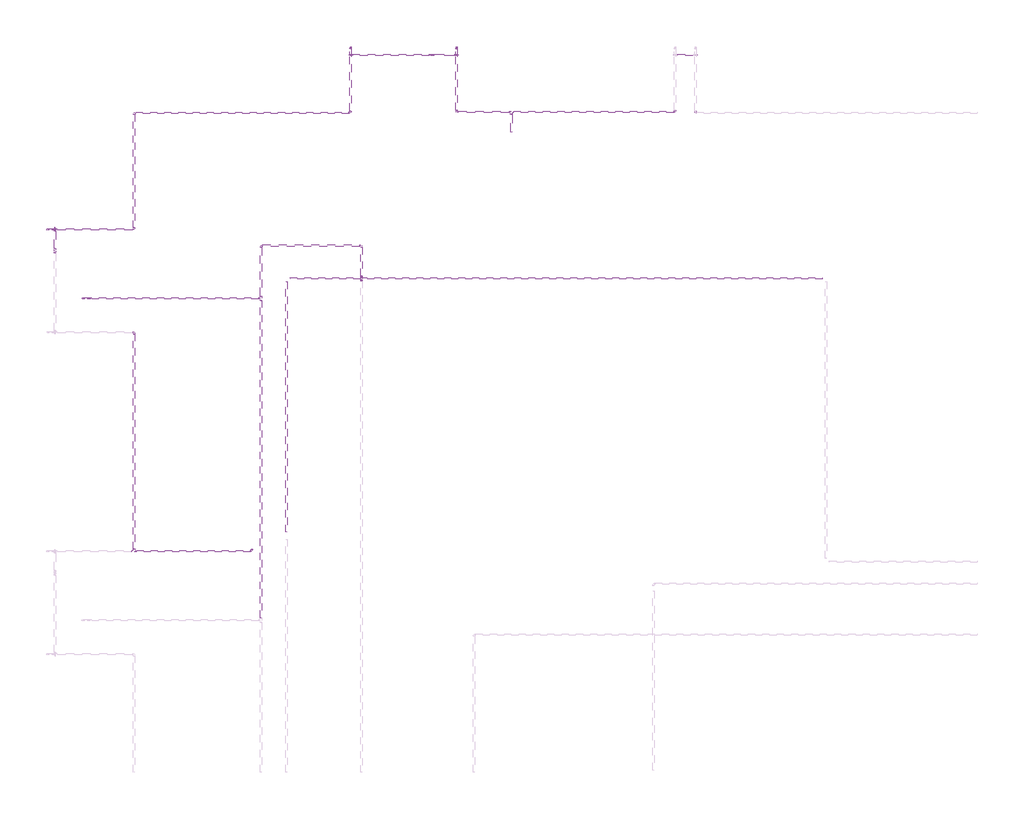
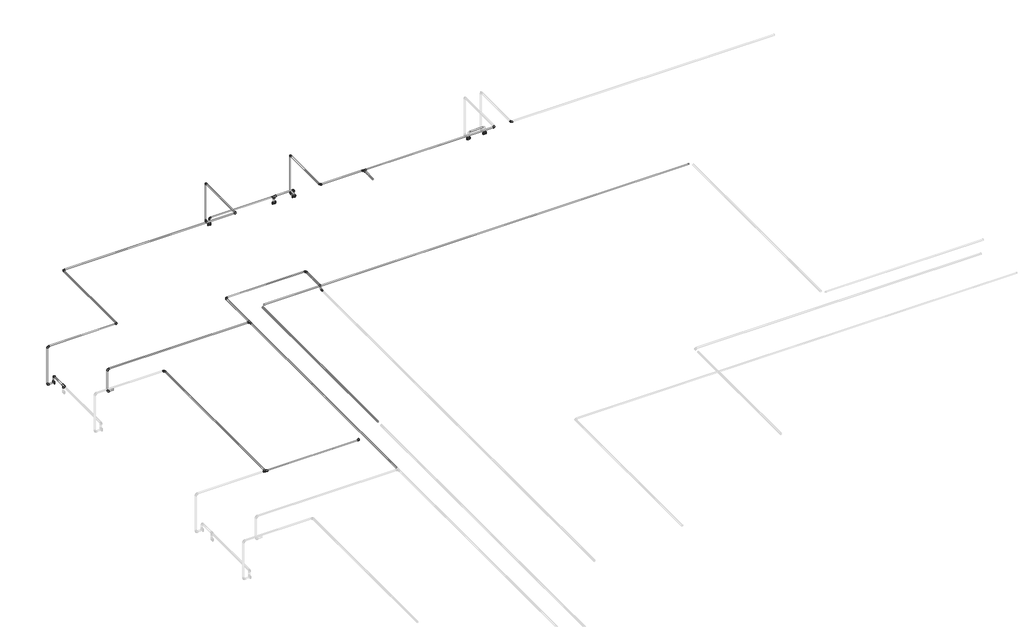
# One storey, part 29 of 40: 35 cable carrier segments, 28 cable carrier fittings, 6 electric appliances.
"""IFC4 building model written with IfcOpenShell, lengths in millimetres."""

from ifc_helpers import new_model, si_unit, point, frame, frame_2d, origin, place, context, project, spatial, circle_curve, trimmed, segment, composite_curve, outline, extrude, transform, mapped, element, save
from components import cable_carrier_fitting_69f1a801, cable_carrier_fitting_8122f9af, cable_carrier_fitting_8fd13dfc, electric_appliance_5961a143

model = new_model("IFC4")

# Units and contexts
model_context = context("Model", 3, world=origin())
ifc_project = project(units=[si_unit("LENGTHUNIT", "METRE", prefix="MILLI")], contexts=[model_context])

# Site, building, storey
site = spatial("IfcSite", under=ifc_project)
building = spatial("IfcBuilding", under=site)
storey = spatial("IfcBuildingStorey", under=building, Name="1 этаж", Elevation=0.0)

# Cable carrier fittings
placement = place(None, origin())
cable_carrier_fitting_shape = cable_carrier_fitting_69f1a801(model_context)
element("IfcCableCarrierFitting", 1, ObjectType="ADSK_Поворот_Минимальный размер : Неспецифицируемый", at=placement, inside=storey, context=model_context, shape_type="MappedRepresentation", body=[
    mapped(cable_carrier_fitting_shape, transform((-16746.5238077, 20232.1370105, 2534.0911237), x_axis=(-1.0, 0.0, 0.0), y_axis=(0.0, 0.0, 1.0), z_axis=(0.0, 1.0, 0.0))),
])
element("IfcCableCarrierFitting", 2, ObjectType="ADSK_Поворот_Минимальный размер : Неспецифицируемый", at=placement, inside=storey, context=model_context, shape_type="MappedRepresentation", body=[
    mapped(cable_carrier_fitting_shape, transform((-16746.5238077, 20232.1370105, 3187.0), x_axis=(0.0, 0.0, 1.0), y_axis=(1.0, 0.0, 0.0), z_axis=(0.0, 1.0, 0.0))),
])
element("IfcCableCarrierFitting", 3, ObjectType="ADSK_Поворот_Минимальный размер : Неспецифицируемый", at=placement, inside=storey, context=model_context, shape_type="MappedRepresentation", body=[
    mapped(cable_carrier_fitting_shape, transform((-11452.3240021, 22488.6370105, 2650.0), x_axis=(0.0, 0.0, 1.0), y_axis=(-1.0, 0.0, 0.0), z_axis=(0.0, -1.0, 0.0))),
])
element("IfcCableCarrierFitting", 4, ObjectType="ADSK_Поворот_Минимальный размер : Неспецифицируемый", at=placement, inside=storey, context=model_context, shape_type="MappedRepresentation", body=[
    mapped(cable_carrier_fitting_shape, transform((-12822.3240021, 22488.6370105, 2650.0), x_axis=(0.0, 0.0, 1.0), y_axis=(1.0, 0.0, 0.0), z_axis=(0.0, 1.0, 0.0))),
])
element("IfcCableCarrierFitting", 5, ObjectType="ADSK_Поворот_Минимальный размер : Неспецифицируемый", at=placement, inside=storey, context=model_context, shape_type="MappedRepresentation", body=[
    mapped(cable_carrier_fitting_shape, transform((-12822.3240021, 22588.8368161, 2534.0911237), x_axis=(0.0, 1.0, 0.0), y_axis=(0.0, 0.0, 1.0), z_axis=(1.0, 0.0, 0.0))),
])
element("IfcCableCarrierFitting", 6, ObjectType="ADSK_Поворот_Минимальный размер : Неспецифицируемый", at=placement, inside=storey, context=model_context, shape_type="MappedRepresentation", body=[
    mapped(cable_carrier_fitting_shape, transform((-12822.3240021, 22588.8368161, 3187.0), x_axis=(0.0, 0.0, 1.0), y_axis=(0.0, -1.0, 0.0), z_axis=(1.0, 0.0, 0.0))),
])
element("IfcCableCarrierFitting", 7, ObjectType="ADSK_Поворот_Минимальный размер : Неспецифицируемый", at=placement, inside=storey, context=model_context, shape_type="MappedRepresentation", body=[
    mapped(cable_carrier_fitting_shape, transform((-12822.3240021, 21741.6370105, 3187.0), x_axis=(1.0, 0.0, 0.0), y_axis=(0.0, 1.0, 0.0), z_axis=(0.0, 0.0, 1.0))),
])
element("IfcCableCarrierFitting", 8, ObjectType="ADSK_Поворот_Минимальный размер : Неспецифицируемый", at=placement, inside=storey, context=model_context, shape_type="MappedRepresentation", body=[
    mapped(cable_carrier_fitting_shape, transform((-15622.3240021, 20232.1370105, 3187.0), x_axis=(1.0, 0.0, 0.0), y_axis=(0.0, 1.0, 0.0), z_axis=(0.0, 0.0, 1.0))),
])
element("IfcCableCarrierFitting", 9, ObjectType="ADSK_Поворот_Минимальный размер : Неспецифицируемый", at=placement, inside=storey, context=model_context, shape_type="MappedRepresentation", body=[
    mapped(cable_carrier_fitting_shape, transform((-15622.3240021, 21741.6370105, 3187.0), x_axis=(-1.0, 0.0, 0.0), y_axis=(0.0, -1.0, 0.0), z_axis=(0.0, 0.0, 1.0))),
])
element("IfcCableCarrierFitting", 10, ObjectType="ADSK_Поворот_Минимальный размер : Неспецифицируемый", at=placement, inside=storey, context=model_context, shape_type="MappedRepresentation", body=[
    mapped(cable_carrier_fitting_shape, transform((-11452.3240021, 22588.8368161, 2534.0911237), x_axis=(0.0, 1.0, 0.0), y_axis=(0.0, 0.0, 1.0), z_axis=(1.0, 0.0, 0.0))),
])
element("IfcCableCarrierFitting", 11, ObjectType="ADSK_Поворот_Минимальный размер : Неспецифицируемый", at=placement, inside=storey, context=model_context, shape_type="MappedRepresentation", body=[
    mapped(cable_carrier_fitting_shape, transform((-11452.3240021, 22588.8368161, 3187.0), x_axis=(0.0, 0.0, 1.0), y_axis=(0.0, -1.0, 0.0), z_axis=(1.0, 0.0, 0.0))),
])
element("IfcCableCarrierFitting", 12, ObjectType="ADSK_Поворот_Минимальный размер : Неспецифицируемый", at=placement, inside=storey, context=model_context, shape_type="MappedRepresentation", body=[
    mapped(cable_carrier_fitting_shape, transform((-11452.3240021, 21751.6370105, 3187.0), x_axis=(0.0, -1.0, 0.0), y_axis=(1.0, 0.0, 0.0), z_axis=(0.0, 0.0, 1.0))),
])
element("IfcCableCarrierFitting", 13, ObjectType="ADSK_Поворот_Минимальный размер : Неспецифицируемый", at=placement, inside=storey, context=model_context, shape_type="MappedRepresentation", body=[
    mapped(cable_carrier_fitting_shape, transform((-8622.3240021, 21751.6370105, 3187.0), x_axis=(1.0, 0.0, 0.0), y_axis=(0.0, 1.0, 0.0), z_axis=(0.0, 0.0, 1.0))),
])
element("IfcCableCarrierFitting", 14, ObjectType="ADSK_Поворот_Минимальный размер : Неспецифицируемый", at=placement, inside=storey, context=model_context, shape_type="MappedRepresentation", body=[
    mapped(cable_carrier_fitting_shape, transform((-8362.3240021, 21741.6370105, 3187.0), x_axis=(0.0, -1.0, 0.0), y_axis=(1.0, 0.0, 0.0), z_axis=(0.0, 0.0, 1.0))),
])
element("IfcCableCarrierFitting", 15, ObjectType="ADSK_Поворот_Минимальный размер : Неспецифицируемый", at=placement, inside=storey, context=model_context, shape_type="MappedRepresentation", body=[
    mapped(cable_carrier_fitting_shape, transform((-16289.5238077, 19339.6370105, 2797.4861504), x_axis=(-1.0, 0.0, 0.0), y_axis=(0.0, 0.0, 1.0), z_axis=(0.0, 1.0, 0.0))),
])
element("IfcCableCarrierFitting", 16, ObjectType="ADSK_Поворот_Минимальный размер : Неспецифицируемый", at=placement, inside=storey, context=model_context, shape_type="MappedRepresentation", body=[
    mapped(cable_carrier_fitting_shape, transform((-13982.3240021, 20021.1105956, 3180.0), x_axis=(-1.0, 0.0, 0.0), y_axis=(0.0, -1.0, 0.0), z_axis=(0.0, 0.0, 1.0))),
])
element("IfcCableCarrierFitting", 17, ObjectType="ADSK_Поворот_Минимальный размер : Неспецифицируемый", at=placement, inside=storey, context=model_context, shape_type="MappedRepresentation", body=[
    mapped(cable_carrier_fitting_shape, transform((-16289.5238077, 19339.6370105, 3180.0), x_axis=(0.0, 0.0, 1.0), y_axis=(1.0, 0.0, 0.0), z_axis=(0.0, 1.0, 0.0))),
])
element("IfcCableCarrierFitting", 18, ObjectType="ADSK_Поворот_Минимальный размер : Неспецифицируемый", at=placement, inside=storey, context=model_context, shape_type="MappedRepresentation", body=[
    mapped(cable_carrier_fitting_shape, transform((-15622.3240021, 18899.6370105, 3187.0), x_axis=(0.0, 1.0, 0.0), y_axis=(-1.0, 0.0, 0.0), z_axis=(0.0, 0.0, 1.0))),
])
element("IfcCableCarrierFitting", 19, ObjectType="ADSK_Поворот_Минимальный размер : Неспецифицируемый", at=placement, inside=storey, context=model_context, shape_type="MappedRepresentation", body=[
    mapped(cable_carrier_fitting_shape, transform((-14101.29415, 16064.6370105, 3187.0), x_axis=(1.0, 0.0, 0.0), y_axis=(0.0, 1.0, 0.0), z_axis=(0.0, 0.0, 1.0))),
])
element("IfcCableCarrierFitting", 20, ObjectType="ADSK_Поворот_Минимальный размер : Неспецифицируемый", at=placement, inside=storey, context=model_context, shape_type="MappedRepresentation", body=[
    mapped(cable_carrier_fitting_shape, transform((-16646.3240021, 20232.1370105, 2650.0), x_axis=(0.0, 1.0, 0.0), y_axis=(0.0, 0.0, -1.0), z_axis=(-1.0, 0.0, 0.0))),
])
element("IfcCableCarrierFitting", 21, ObjectType="ADSK_Поворот_Минимальный размер : Неспецифицируемый", at=placement, inside=storey, context=model_context, shape_type="MappedRepresentation", body=[
    mapped(cable_carrier_fitting_shape, transform((-12682.3240021, 20021.1105956, 3180.0), x_axis=(0.0, 1.0, 0.0), y_axis=(-1.0, 0.0, 0.0), z_axis=(0.0, 0.0, 1.0))),
])
cable_carrier_fitting_2_shape = cable_carrier_fitting_8122f9af(model_context)
element("IfcCableCarrierFitting", 22, ObjectType="ADSK_Поворот_Минимальный размер : Неспецифицируемый", at=placement, inside=storey, context=model_context, shape_type="MappedRepresentation", body=[
    mapped(cable_carrier_fitting_2_shape, transform((-12682.3240021, 19571.5200955, 3130.0), x_axis=(0.0, -0.7071067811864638, -0.7071067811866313), y_axis=(0.0, -0.7071067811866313, 0.7071067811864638), z_axis=(-1.0, 0.0, 0.0))),
])
element("IfcCableCarrierFitting", 23, ObjectType="ADSK_Поворот_Минимальный размер : Неспецифицируемый", at=placement, inside=storey, context=model_context, shape_type="MappedRepresentation", body=[
    mapped(cable_carrier_fitting_2_shape, transform((-12682.3240021, 19621.5200955, 3180.0), x_axis=(0.0, 0.7071067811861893, 0.7071067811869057), y_axis=(0.0, 0.7071067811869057, -0.7071067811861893), z_axis=(-1.0, 0.0, 0.0))),
])
cable_carrier_fitting_3_shape = cable_carrier_fitting_8fd13dfc(model_context)
element("IfcCableCarrierFitting", 24, ObjectType="ADSK_Тройник : ПВХ", at=placement, inside=storey, context=model_context, shape_type="MappedRepresentation", body=[
    mapped(cable_carrier_fitting_3_shape, transform((-16646.3240021, 19952.1370105, 2650.0), x_axis=(0.0, 1.0, 0.0), y_axis=(0.0, 0.0, 1.0), z_axis=(1.0, 0.0, 0.0))),
])
element("IfcCableCarrierFitting", 25, ObjectType="ADSK_Тройник : ПВХ", at=placement, inside=storey, context=model_context, shape_type="MappedRepresentation", body=[
    mapped(cable_carrier_fitting_3_shape, transform((-11772.3240021, 22488.6370105, 2650.0), x_axis=(1.0, 0.0, 0.0), y_axis=(0.0, 0.0, 1.0), z_axis=(0.0, -1.0, 0.0))),
])
element("IfcCableCarrierFitting", 26, ObjectType="ADSK_Тройник : ПВХ", at=placement, inside=storey, context=model_context, shape_type="MappedRepresentation", body=[
    mapped(cable_carrier_fitting_3_shape, transform((-13982.3240021, 19339.6370105, 3180.0), x_axis=(0.0, -1.0, 0.0), y_axis=(1.0, 0.0, 0.0), z_axis=(0.0, 0.0, 1.0))),
])
element("IfcCableCarrierFitting", 27, ObjectType="ADSK_Тройник : ПВХ", at=placement, inside=storey, context=model_context, shape_type="MappedRepresentation", body=[
    mapped(cable_carrier_fitting_3_shape, transform((-15622.3240021, 16064.6370105, 3187.0), x_axis=(-1.0, 0.0, 0.0), y_axis=(0.0, -1.0, 0.0), z_axis=(0.0, 0.0, 1.0))),
])
element("IfcCableCarrierFitting", 28, ObjectType="ADSK_Тройник : ПВХ", at=placement, inside=storey, context=model_context, shape_type="MappedRepresentation", body=[
    mapped(cable_carrier_fitting_3_shape, transform((-10742.3240021, 21751.6370105, 3187.0), x_axis=(1.0, 0.0, 0.0), y_axis=(0.0, 1.0, 0.0), z_axis=(0.0, 0.0, 1.0))),
])

# Cable carrier segments
element("IfcCableCarrierSegment", 29, ObjectType="Гофрированная труба", at=placement, inside=storey, context=model_context, shape_type="SweptSolid", body=[
    extrude(outline(composite_curve([segment(trimmed(circle_curve(frame_2d((19599.63701, 3189.2125212)), 10.0), [point((19609.63701, 3189.2125212))], [point((19599.63701, 3179.2125212))], False, "CARTESIAN"), True, "CONTINUOUS"), segment(trimmed(circle_curve(frame_2d((19599.63701, 3189.2125212)), 10.0), [point((19599.63701, 3179.2125212))], [point((19589.63701, 3189.2125212))], False, "CARTESIAN"), True, "CONTINUOUS"), segment(trimmed(circle_curve(frame_2d((19599.63701, 3189.2125212)), 10.0), [point((19589.63701, 3189.2125212))], [point((19599.63701, 3199.2125212))], False, "CARTESIAN"), True, "CONTINUOUS"), segment(trimmed(circle_curve(frame_2d((19599.63701, 3189.2125212)), 10.0), [point((19599.63701, 3199.2125212))], [point((19609.63701, 3189.2125212))], False, "CARTESIAN"), True, "CONTINUOUS")], self_intersect=False)), frame((-13605.8240113, 0.0, 0.0), z_axis=(1.0, 0.0, 0.0), x_axis=(0.0, 1.0, 0.0)), (0.0, 0.0, 1.0), 6887.0000092),
])
element("IfcCableCarrierSegment", 30, ObjectType="Гофрированная труба", at=placement, inside=storey, context=model_context, shape_type="SweptSolid", body=[
    extrude(outline(composite_curve([segment(trimmed(circle_curve(frame_2d((3189.2125212, -13652.3240113)), 10.0), [point((3189.2125212, -13642.3240113))], [point((3199.2125212, -13652.3240113))], False, "CARTESIAN"), True, "CONTINUOUS"), segment(trimmed(circle_curve(frame_2d((3189.2125212, -13652.3240113)), 10.0), [point((3199.2125212, -13652.3240113))], [point((3189.2125212, -13662.3240113))], False, "CARTESIAN"), True, "CONTINUOUS"), segment(trimmed(circle_curve(frame_2d((3189.2125212, -13652.3240113)), 10.0), [point((3189.2125212, -13662.3240113))], [point((3179.2125212, -13652.3240113))], False, "CARTESIAN"), True, "CONTINUOUS"), segment(trimmed(circle_curve(frame_2d((3189.2125212, -13652.3240113)), 10.0), [point((3179.2125212, -13652.3240113))], [point((3189.2125212, -13642.3240113))], False, "CARTESIAN"), True, "CONTINUOUS")], self_intersect=False)), frame((0.0, 16311.1370097, 0.0), z_axis=(0.0, 1.0, 0.0), x_axis=(0.0, 0.0, 1.0)), (0.0, 0.0, 1.0), 3242.0000003),
])
element("IfcCableCarrierSegment", 31, ObjectType="Гофрированная труба", at=placement, inside=storey, context=model_context, shape_type="SweptSolid", body=[
    extrude(outline(composite_curve([segment(trimmed(circle_curve(frame_2d((-16646.3240021, 20232.1370105)), 10.0), [point((-16636.3240021, 20232.1370105))], [point((-16646.3240021, 20222.1370105))], False, "CARTESIAN"), True, "CONTINUOUS"), segment(trimmed(circle_curve(frame_2d((-16646.3240021, 20232.1370105)), 10.0), [point((-16646.3240021, 20222.1370105))], [point((-16656.3240021, 20232.1370105))], False, "CARTESIAN"), True, "CONTINUOUS"), segment(trimmed(circle_curve(frame_2d((-16646.3240021, 20232.1370105)), 10.0), [point((-16656.3240021, 20232.1370105))], [point((-16646.3240021, 20242.1370105))], False, "CARTESIAN"), True, "CONTINUOUS"), segment(trimmed(circle_curve(frame_2d((-16646.3240021, 20232.1370105)), 10.0), [point((-16646.3240021, 20242.1370105))], [point((-16636.3240021, 20232.1370105))], False, "CARTESIAN"), True, "CONTINUOUS")], self_intersect=False)), frame((0.0, 0.0, 2563.1207114), z_axis=(0.0, 0.0, 1.0), x_axis=(1.0, 0.0, 0.0)), (0.0, 0.0, 1.0), 65.8792886),
])
element("IfcCableCarrierSegment", 32, ObjectType="Гофрированная труба", at=placement, inside=storey, context=model_context, shape_type="SweptSolid", body=[
    extrude(outline(composite_curve([segment(trimmed(circle_curve(frame_2d((2650.0, -16646.3240021)), 10.0), [point((2650.0, -16656.3240021))], [point((2640.0, -16646.3240021))], False, "CARTESIAN"), True, "CONTINUOUS"), segment(trimmed(circle_curve(frame_2d((2650.0, -16646.3240021)), 10.0), [point((2640.0, -16646.3240021))], [point((2650.0, -16636.3240021))], False, "CARTESIAN"), True, "CONTINUOUS"), segment(trimmed(circle_curve(frame_2d((2650.0, -16646.3240021)), 10.0), [point((2650.0, -16636.3240021))], [point((2660.0, -16646.3240021))], False, "CARTESIAN"), True, "CONTINUOUS"), segment(trimmed(circle_curve(frame_2d((2650.0, -16646.3240021)), 10.0), [point((2660.0, -16646.3240021))], [point((2650.0, -16656.3240021))], False, "CARTESIAN"), True, "CONTINUOUS")], self_intersect=False)), frame((0.0, 19982.1370105, 0.0), z_axis=(0.0, 1.0, 0.0), x_axis=(0.0, 0.0, 1.0)), (0.0, 0.0, 1.0), 229.0),
])
element("IfcCableCarrierSegment", 33, ObjectType="Гофрированная труба", at=placement, inside=storey, context=model_context, shape_type="SweptSolid", body=[
    extrude(outline(composite_curve([segment(trimmed(circle_curve(frame_2d((20232.1370105, 3187.0)), 10.0), [point((20222.1370105, 3187.0))], [point((20232.1370105, 3197.0))], False, "CARTESIAN"), True, "CONTINUOUS"), segment(trimmed(circle_curve(frame_2d((20232.1370105, 3187.0)), 10.0), [point((20232.1370105, 3197.0))], [point((20242.1370105, 3187.0))], False, "CARTESIAN"), True, "CONTINUOUS"), segment(trimmed(circle_curve(frame_2d((20232.1370105, 3187.0)), 10.0), [point((20242.1370105, 3187.0))], [point((20232.1370105, 3177.0))], False, "CARTESIAN"), True, "CONTINUOUS"), segment(trimmed(circle_curve(frame_2d((20232.1370105, 3187.0)), 10.0), [point((20232.1370105, 3177.0))], [point((20222.1370105, 3187.0))], False, "CARTESIAN"), True, "CONTINUOUS")], self_intersect=False)), frame((-16725.5238077, 0.0, 0.0), z_axis=(1.0, 0.0, 0.0), x_axis=(0.0, 1.0, 0.0)), (0.0, 0.0, 1.0), 1082.1998056),
])
element("IfcCableCarrierSegment", 34, ObjectType="Гофрированная труба", at=placement, inside=storey, context=model_context, shape_type="SweptSolid", body=[
    extrude(outline(composite_curve([segment(trimmed(circle_curve(frame_2d((20232.1370105, 2534.0911237)), 10.0), [point((20242.1370105, 2534.0911237))], [point((20232.1370105, 2524.0911237))], False, "CARTESIAN"), True, "CONTINUOUS"), segment(trimmed(circle_curve(frame_2d((20232.1370105, 2534.0911237)), 10.0), [point((20232.1370105, 2524.0911237))], [point((20222.1370105, 2534.0911237))], False, "CARTESIAN"), True, "CONTINUOUS"), segment(trimmed(circle_curve(frame_2d((20232.1370105, 2534.0911237)), 10.0), [point((20222.1370105, 2534.0911237))], [point((20232.1370105, 2544.0911237))], False, "CARTESIAN"), True, "CONTINUOUS"), segment(trimmed(circle_curve(frame_2d((20232.1370105, 2534.0911237)), 10.0), [point((20232.1370105, 2544.0911237))], [point((20242.1370105, 2534.0911237))], False, "CARTESIAN"), True, "CONTINUOUS")], self_intersect=False)), frame((-16725.5238077, 0.0, 0.0), z_axis=(1.0, 0.0, 0.0), x_axis=(0.0, 1.0, 0.0)), (0.0, 0.0, 1.0), 76.1998056),
])
element("IfcCableCarrierSegment", 35, ObjectType="Гофрированная труба", at=placement, inside=storey, context=model_context, shape_type="SweptSolid", body=[
    extrude(outline(composite_curve([segment(trimmed(circle_curve(frame_2d((-16746.5238077, 20232.1370105)), 10.0), [point((-16756.5238077, 20232.1370105))], [point((-16746.5238077, 20242.1370105))], False, "CARTESIAN"), True, "CONTINUOUS"), segment(trimmed(circle_curve(frame_2d((-16746.5238077, 20232.1370105)), 10.0), [point((-16746.5238077, 20242.1370105))], [point((-16736.5238077, 20232.1370105))], False, "CARTESIAN"), True, "CONTINUOUS"), segment(trimmed(circle_curve(frame_2d((-16746.5238077, 20232.1370105)), 10.0), [point((-16736.5238077, 20232.1370105))], [point((-16746.5238077, 20222.1370105))], False, "CARTESIAN"), True, "CONTINUOUS"), segment(trimmed(circle_curve(frame_2d((-16746.5238077, 20232.1370105)), 10.0), [point((-16746.5238077, 20222.1370105))], [point((-16756.5238077, 20232.1370105))], False, "CARTESIAN"), True, "CONTINUOUS")], self_intersect=False)), frame((0.0, 0.0, 2555.0911237), z_axis=(0.0, 0.0, 1.0), x_axis=(1.0, 0.0, 0.0)), (0.0, 0.0, 1.0), 610.9088763),
])
element("IfcCableCarrierSegment", 36, ObjectType="Гофрированная труба", at=placement, inside=storey, context=model_context, shape_type="SweptSolid", body=[
    extrude(outline(composite_curve([segment(trimmed(circle_curve(frame_2d((-12822.3240021, 22488.6370105)), 10.0), [point((-12832.3240021, 22488.6370105))], [point((-12822.3240021, 22498.6370105))], False, "CARTESIAN"), True, "CONTINUOUS"), segment(trimmed(circle_curve(frame_2d((-12822.3240021, 22488.6370105)), 10.0), [point((-12822.3240021, 22498.6370105))], [point((-12812.3240021, 22488.6370105))], False, "CARTESIAN"), True, "CONTINUOUS"), segment(trimmed(circle_curve(frame_2d((-12822.3240021, 22488.6370105)), 10.0), [point((-12812.3240021, 22488.6370105))], [point((-12822.3240021, 22478.6370105))], False, "CARTESIAN"), True, "CONTINUOUS"), segment(trimmed(circle_curve(frame_2d((-12822.3240021, 22488.6370105)), 10.0), [point((-12822.3240021, 22478.6370105))], [point((-12832.3240021, 22488.6370105))], False, "CARTESIAN"), True, "CONTINUOUS")], self_intersect=False)), frame((0.0, 0.0, 2563.1207114), z_axis=(0.0, 0.0, 1.0), x_axis=(1.0, 0.0, 0.0)), (0.0, 0.0, 1.0), 65.8792886),
])
element("IfcCableCarrierSegment", 37, ObjectType="Гофрированная труба", at=placement, inside=storey, context=model_context, shape_type="SweptSolid", body=[
    extrude(outline(composite_curve([segment(trimmed(circle_curve(frame_2d((-11772.3240021, 22488.6370105)), 10.0), [point((-11782.3240021, 22488.6370105))], [point((-11772.3240021, 22498.6370105))], False, "CARTESIAN"), True, "CONTINUOUS"), segment(trimmed(circle_curve(frame_2d((-11772.3240021, 22488.6370105)), 10.0), [point((-11772.3240021, 22498.6370105))], [point((-11762.3240021, 22488.6370105))], False, "CARTESIAN"), True, "CONTINUOUS"), segment(trimmed(circle_curve(frame_2d((-11772.3240021, 22488.6370105)), 10.0), [point((-11762.3240021, 22488.6370105))], [point((-11772.3240021, 22478.6370105))], False, "CARTESIAN"), True, "CONTINUOUS"), segment(trimmed(circle_curve(frame_2d((-11772.3240021, 22488.6370105)), 10.0), [point((-11772.3240021, 22478.6370105))], [point((-11782.3240021, 22488.6370105))], False, "CARTESIAN"), True, "CONTINUOUS")], self_intersect=False)), frame((0.0, 0.0, 2563.1207114), z_axis=(0.0, 0.0, 1.0), x_axis=(1.0, 0.0, 0.0)), (0.0, 0.0, 1.0), 56.8792886),
])
element("IfcCableCarrierSegment", 38, ObjectType="Гофрированная труба", at=placement, inside=storey, context=model_context, shape_type="SweptSolid", body=[
    extrude(outline(composite_curve([segment(trimmed(circle_curve(frame_2d((22488.6370105, 2650.0)), 10.0), [point((22498.6370105, 2650.0))], [point((22488.6370105, 2640.0))], False, "CARTESIAN"), True, "CONTINUOUS"), segment(trimmed(circle_curve(frame_2d((22488.6370105, 2650.0)), 10.0), [point((22488.6370105, 2640.0))], [point((22478.6370105, 2650.0))], False, "CARTESIAN"), True, "CONTINUOUS"), segment(trimmed(circle_curve(frame_2d((22488.6370105, 2650.0)), 10.0), [point((22478.6370105, 2650.0))], [point((22488.6370105, 2660.0))], False, "CARTESIAN"), True, "CONTINUOUS"), segment(trimmed(circle_curve(frame_2d((22488.6370105, 2650.0)), 10.0), [point((22488.6370105, 2660.0))], [point((22498.6370105, 2650.0))], False, "CARTESIAN"), True, "CONTINUOUS")], self_intersect=False)), frame((-12801.3240021, 0.0, 0.0), z_axis=(1.0, 0.0, 0.0), x_axis=(0.0, 1.0, 0.0)), (0.0, 0.0, 1.0), 999.0),
])
element("IfcCableCarrierSegment", 39, ObjectType="Гофрированная труба", at=placement, inside=storey, context=model_context, shape_type="SweptSolid", body=[
    extrude(outline(composite_curve([segment(trimmed(circle_curve(frame_2d((-11452.3240021, 22488.6370105)), 10.0), [point((-11462.3240021, 22488.6370105))], [point((-11452.3240021, 22498.6370105))], False, "CARTESIAN"), True, "CONTINUOUS"), segment(trimmed(circle_curve(frame_2d((-11452.3240021, 22488.6370105)), 10.0), [point((-11452.3240021, 22498.6370105))], [point((-11442.3240021, 22488.6370105))], False, "CARTESIAN"), True, "CONTINUOUS"), segment(trimmed(circle_curve(frame_2d((-11452.3240021, 22488.6370105)), 10.0), [point((-11442.3240021, 22488.6370105))], [point((-11452.3240021, 22478.6370105))], False, "CARTESIAN"), True, "CONTINUOUS"), segment(trimmed(circle_curve(frame_2d((-11452.3240021, 22488.6370105)), 10.0), [point((-11452.3240021, 22478.6370105))], [point((-11462.3240021, 22488.6370105))], False, "CARTESIAN"), True, "CONTINUOUS")], self_intersect=False)), frame((0.0, 0.0, 2563.1207114), z_axis=(0.0, 0.0, 1.0), x_axis=(1.0, 0.0, 0.0)), (0.0, 0.0, 1.0), 65.8792886),
])
element("IfcCableCarrierSegment", 40, ObjectType="Гофрированная труба", at=placement, inside=storey, context=model_context, shape_type="SweptSolid", body=[
    extrude(outline(composite_curve([segment(trimmed(circle_curve(frame_2d((22488.6370105, 2650.0)), 10.0), [point((22498.6370105, 2650.0))], [point((22488.6370105, 2640.0))], False, "CARTESIAN"), True, "CONTINUOUS"), segment(trimmed(circle_curve(frame_2d((22488.6370105, 2650.0)), 10.0), [point((22488.6370105, 2640.0))], [point((22478.6370105, 2650.0))], False, "CARTESIAN"), True, "CONTINUOUS"), segment(trimmed(circle_curve(frame_2d((22488.6370105, 2650.0)), 10.0), [point((22478.6370105, 2650.0))], [point((22488.6370105, 2660.0))], False, "CARTESIAN"), True, "CONTINUOUS"), segment(trimmed(circle_curve(frame_2d((22488.6370105, 2650.0)), 10.0), [point((22488.6370105, 2660.0))], [point((22498.6370105, 2650.0))], False, "CARTESIAN"), True, "CONTINUOUS")], self_intersect=False)), frame((-11742.3240021, 0.0, 0.0), z_axis=(1.0, 0.0, 0.0), x_axis=(0.0, 1.0, 0.0)), (0.0, 0.0, 1.0), 269.0),
])
element("IfcCableCarrierSegment", 41, ObjectType="Гофрированная труба", at=placement, inside=storey, context=model_context, shape_type="SweptSolid", body=[
    extrude(outline(composite_curve([segment(trimmed(circle_curve(frame_2d((3187.0, -12822.3240021)), 10.0), [point((3187.0, -12832.3240021))], [point((3177.0, -12822.3240021))], False, "CARTESIAN"), True, "CONTINUOUS"), segment(trimmed(circle_curve(frame_2d((3187.0, -12822.3240021)), 10.0), [point((3177.0, -12822.3240021))], [point((3187.0, -12812.3240021))], False, "CARTESIAN"), True, "CONTINUOUS"), segment(trimmed(circle_curve(frame_2d((3187.0, -12822.3240021)), 10.0), [point((3187.0, -12812.3240021))], [point((3197.0, -12822.3240021))], False, "CARTESIAN"), True, "CONTINUOUS"), segment(trimmed(circle_curve(frame_2d((3187.0, -12822.3240021)), 10.0), [point((3197.0, -12822.3240021))], [point((3187.0, -12832.3240021))], False, "CARTESIAN"), True, "CONTINUOUS")], self_intersect=False)), frame((0.0, 21762.6370105, 0.0), z_axis=(0.0, 1.0, 0.0), x_axis=(0.0, 0.0, 1.0)), (0.0, 0.0, 1.0), 805.1998056),
])
element("IfcCableCarrierSegment", 42, ObjectType="Гофрированная труба", at=placement, inside=storey, context=model_context, shape_type="SweptSolid", body=[
    extrude(outline(composite_curve([segment(trimmed(circle_curve(frame_2d((2534.0911237, -12822.3240021)), 10.0), [point((2534.0911237, -12812.3240021))], [point((2544.0911237, -12822.3240021))], False, "CARTESIAN"), True, "CONTINUOUS"), segment(trimmed(circle_curve(frame_2d((2534.0911237, -12822.3240021)), 10.0), [point((2544.0911237, -12822.3240021))], [point((2534.0911237, -12832.3240021))], False, "CARTESIAN"), True, "CONTINUOUS"), segment(trimmed(circle_curve(frame_2d((2534.0911237, -12822.3240021)), 10.0), [point((2534.0911237, -12832.3240021))], [point((2524.0911237, -12822.3240021))], False, "CARTESIAN"), True, "CONTINUOUS"), segment(trimmed(circle_curve(frame_2d((2534.0911237, -12822.3240021)), 10.0), [point((2524.0911237, -12822.3240021))], [point((2534.0911237, -12812.3240021))], False, "CARTESIAN"), True, "CONTINUOUS")], self_intersect=False)), frame((0.0, 22491.6370105, 0.0), z_axis=(0.0, 1.0, 0.0), x_axis=(0.0, 0.0, 1.0)), (0.0, 0.0, 1.0), 76.1998056),
])
element("IfcCableCarrierSegment", 43, ObjectType="Гофрированная труба", at=placement, inside=storey, context=model_context, shape_type="SweptSolid", body=[
    extrude(outline(composite_curve([segment(trimmed(circle_curve(frame_2d((-12822.3240021, 22588.8368161)), 10.0), [point((-12832.3240021, 22588.8368161))], [point((-12822.3240021, 22598.8368161))], False, "CARTESIAN"), True, "CONTINUOUS"), segment(trimmed(circle_curve(frame_2d((-12822.3240021, 22588.8368161)), 10.0), [point((-12822.3240021, 22598.8368161))], [point((-12812.3240021, 22588.8368161))], False, "CARTESIAN"), True, "CONTINUOUS"), segment(trimmed(circle_curve(frame_2d((-12822.3240021, 22588.8368161)), 10.0), [point((-12812.3240021, 22588.8368161))], [point((-12822.3240021, 22578.8368161))], False, "CARTESIAN"), True, "CONTINUOUS"), segment(trimmed(circle_curve(frame_2d((-12822.3240021, 22588.8368161)), 10.0), [point((-12822.3240021, 22578.8368161))], [point((-12832.3240021, 22588.8368161))], False, "CARTESIAN"), True, "CONTINUOUS")], self_intersect=False)), frame((0.0, 0.0, 2555.0911237), z_axis=(0.0, 0.0, 1.0), x_axis=(1.0, 0.0, 0.0)), (0.0, 0.0, 1.0), 610.9088763),
])
element("IfcCableCarrierSegment", 44, ObjectType="Гофрированная труба", at=placement, inside=storey, context=model_context, shape_type="SweptSolid", body=[
    extrude(outline(composite_curve([segment(trimmed(circle_curve(frame_2d((21741.6370105, 3187.0)), 10.0), [point((21751.6370105, 3187.0))], [point((21741.6370105, 3177.0))], False, "CARTESIAN"), True, "CONTINUOUS"), segment(trimmed(circle_curve(frame_2d((21741.6370105, 3187.0)), 10.0), [point((21741.6370105, 3177.0))], [point((21731.6370105, 3187.0))], False, "CARTESIAN"), True, "CONTINUOUS"), segment(trimmed(circle_curve(frame_2d((21741.6370105, 3187.0)), 10.0), [point((21731.6370105, 3187.0))], [point((21741.6370105, 3197.0))], False, "CARTESIAN"), True, "CONTINUOUS"), segment(trimmed(circle_curve(frame_2d((21741.6370105, 3187.0)), 10.0), [point((21741.6370105, 3197.0))], [point((21751.6370105, 3187.0))], False, "CARTESIAN"), True, "CONTINUOUS")], self_intersect=False)), frame((-15601.3240021, 0.0, 0.0), z_axis=(1.0, 0.0, 0.0), x_axis=(0.0, 1.0, 0.0)), (0.0, 0.0, 1.0), 2758.0),
])
element("IfcCableCarrierSegment", 45, ObjectType="Гофрированная труба", at=placement, inside=storey, context=model_context, shape_type="SweptSolid", body=[
    extrude(outline(composite_curve([segment(trimmed(circle_curve(frame_2d((3187.0, -15622.3240021)), 10.0), [point((3187.0, -15612.3240021))], [point((3197.0, -15622.3240021))], False, "CARTESIAN"), True, "CONTINUOUS"), segment(trimmed(circle_curve(frame_2d((3187.0, -15622.3240021)), 10.0), [point((3197.0, -15622.3240021))], [point((3187.0, -15632.3240021))], False, "CARTESIAN"), True, "CONTINUOUS"), segment(trimmed(circle_curve(frame_2d((3187.0, -15622.3240021)), 10.0), [point((3187.0, -15632.3240021))], [point((3177.0, -15622.3240021))], False, "CARTESIAN"), True, "CONTINUOUS"), segment(trimmed(circle_curve(frame_2d((3187.0, -15622.3240021)), 10.0), [point((3177.0, -15622.3240021))], [point((3187.0, -15612.3240021))], False, "CARTESIAN"), True, "CONTINUOUS")], self_intersect=False)), frame((0.0, 20253.1370105, 0.0), z_axis=(0.0, 1.0, 0.0), x_axis=(0.0, 0.0, 1.0)), (0.0, 0.0, 1.0), 1467.5),
])
element("IfcCableCarrierSegment", 46, ObjectType="Гофрированная труба", at=placement, inside=storey, context=model_context, shape_type="SweptSolid", body=[
    extrude(outline(composite_curve([segment(trimmed(circle_curve(frame_2d((3187.0, -11452.3240021)), 10.0), [point((3187.0, -11462.3240021))], [point((3177.0, -11452.3240021))], False, "CARTESIAN"), True, "CONTINUOUS"), segment(trimmed(circle_curve(frame_2d((3187.0, -11452.3240021)), 10.0), [point((3177.0, -11452.3240021))], [point((3187.0, -11442.3240021))], False, "CARTESIAN"), True, "CONTINUOUS"), segment(trimmed(circle_curve(frame_2d((3187.0, -11452.3240021)), 10.0), [point((3187.0, -11442.3240021))], [point((3197.0, -11452.3240021))], False, "CARTESIAN"), True, "CONTINUOUS"), segment(trimmed(circle_curve(frame_2d((3187.0, -11452.3240021)), 10.0), [point((3197.0, -11452.3240021))], [point((3187.0, -11462.3240021))], False, "CARTESIAN"), True, "CONTINUOUS")], self_intersect=False)), frame((0.0, 21772.6370105, 0.0), z_axis=(0.0, 1.0, 0.0), x_axis=(0.0, 0.0, 1.0)), (0.0, 0.0, 1.0), 795.1998056),
])
element("IfcCableCarrierSegment", 47, ObjectType="Гофрированная труба", at=placement, inside=storey, context=model_context, shape_type="SweptSolid", body=[
    extrude(outline(composite_curve([segment(trimmed(circle_curve(frame_2d((2534.0911237, -11452.3240021)), 10.0), [point((2534.0911237, -11442.3240021))], [point((2544.0911237, -11452.3240021))], False, "CARTESIAN"), True, "CONTINUOUS"), segment(trimmed(circle_curve(frame_2d((2534.0911237, -11452.3240021)), 10.0), [point((2544.0911237, -11452.3240021))], [point((2534.0911237, -11462.3240021))], False, "CARTESIAN"), True, "CONTINUOUS"), segment(trimmed(circle_curve(frame_2d((2534.0911237, -11452.3240021)), 10.0), [point((2534.0911237, -11462.3240021))], [point((2524.0911237, -11452.3240021))], False, "CARTESIAN"), True, "CONTINUOUS"), segment(trimmed(circle_curve(frame_2d((2534.0911237, -11452.3240021)), 10.0), [point((2524.0911237, -11452.3240021))], [point((2534.0911237, -11442.3240021))], False, "CARTESIAN"), True, "CONTINUOUS")], self_intersect=False)), frame((0.0, 22491.6370105, 0.0), z_axis=(0.0, 1.0, 0.0), x_axis=(0.0, 0.0, 1.0)), (0.0, 0.0, 1.0), 76.1998056),
])
element("IfcCableCarrierSegment", 48, ObjectType="Гофрированная труба", at=placement, inside=storey, context=model_context, shape_type="SweptSolid", body=[
    extrude(outline(composite_curve([segment(trimmed(circle_curve(frame_2d((-11452.3240021, 22588.8368161)), 10.0), [point((-11462.3240021, 22588.8368161))], [point((-11452.3240021, 22598.8368161))], False, "CARTESIAN"), True, "CONTINUOUS"), segment(trimmed(circle_curve(frame_2d((-11452.3240021, 22588.8368161)), 10.0), [point((-11452.3240021, 22598.8368161))], [point((-11442.3240021, 22588.8368161))], False, "CARTESIAN"), True, "CONTINUOUS"), segment(trimmed(circle_curve(frame_2d((-11452.3240021, 22588.8368161)), 10.0), [point((-11442.3240021, 22588.8368161))], [point((-11452.3240021, 22578.8368161))], False, "CARTESIAN"), True, "CONTINUOUS"), segment(trimmed(circle_curve(frame_2d((-11452.3240021, 22588.8368161)), 10.0), [point((-11452.3240021, 22578.8368161))], [point((-11462.3240021, 22588.8368161))], False, "CARTESIAN"), True, "CONTINUOUS")], self_intersect=False)), frame((0.0, 0.0, 2555.0911237), z_axis=(0.0, 0.0, 1.0), x_axis=(1.0, 0.0, 0.0)), (0.0, 0.0, 1.0), 610.9088763),
])
element("IfcCableCarrierSegment", 49, ObjectType="Гофрированная труба", at=placement, inside=storey, context=model_context, shape_type="SweptSolid", body=[
    extrude(outline(composite_curve([segment(trimmed(circle_curve(frame_2d((22488.6370105, 2650.0)), 10.0), [point((22498.6370105, 2650.0))], [point((22488.6370105, 2640.0))], False, "CARTESIAN"), True, "CONTINUOUS"), segment(trimmed(circle_curve(frame_2d((22488.6370105, 2650.0)), 10.0), [point((22488.6370105, 2640.0))], [point((22478.6370105, 2650.0))], False, "CARTESIAN"), True, "CONTINUOUS"), segment(trimmed(circle_curve(frame_2d((22488.6370105, 2650.0)), 10.0), [point((22478.6370105, 2650.0))], [point((22488.6370105, 2660.0))], False, "CARTESIAN"), True, "CONTINUOUS"), segment(trimmed(circle_curve(frame_2d((22488.6370105, 2650.0)), 10.0), [point((22488.6370105, 2660.0))], [point((22498.6370105, 2650.0))], False, "CARTESIAN"), True, "CONTINUOUS")], self_intersect=False)), frame((-8601.3240021, 0.0, 0.0), z_axis=(1.0, 0.0, 0.0), x_axis=(0.0, 1.0, 0.0)), (0.0, 0.0, 1.0), 218.0),
])
element("IfcCableCarrierSegment", 50, ObjectType="Гофрированная труба", at=placement, inside=storey, context=model_context, shape_type="SweptSolid", body=[
    extrude(outline(composite_curve([segment(trimmed(circle_curve(frame_2d((21751.6370105, 3187.0)), 10.0), [point((21741.6370105, 3187.0))], [point((21751.6370105, 3197.0))], False, "CARTESIAN"), True, "CONTINUOUS"), segment(trimmed(circle_curve(frame_2d((21751.6370105, 3187.0)), 10.0), [point((21751.6370105, 3197.0))], [point((21761.6370105, 3187.0))], False, "CARTESIAN"), True, "CONTINUOUS"), segment(trimmed(circle_curve(frame_2d((21751.6370105, 3187.0)), 10.0), [point((21761.6370105, 3187.0))], [point((21751.6370105, 3177.0))], False, "CARTESIAN"), True, "CONTINUOUS"), segment(trimmed(circle_curve(frame_2d((21751.6370105, 3187.0)), 10.0), [point((21751.6370105, 3177.0))], [point((21741.6370105, 3187.0))], False, "CARTESIAN"), True, "CONTINUOUS")], self_intersect=False)), frame((-10712.3240021, 0.0, 0.0), z_axis=(1.0, 0.0, 0.0), x_axis=(0.0, 1.0, 0.0)), (0.0, 0.0, 1.0), 2069.0),
])
element("IfcCableCarrierSegment", 51, ObjectType="Гофрированная труба", at=placement, inside=storey, context=model_context, shape_type="SweptSolid", body=[
    extrude(outline(composite_curve([segment(trimmed(circle_curve(frame_2d((3187.0, -15622.3240021)), 10.0), [point((3187.0, -15632.3240021))], [point((3177.0, -15622.3240021))], False, "CARTESIAN"), True, "CONTINUOUS"), segment(trimmed(circle_curve(frame_2d((3187.0, -15622.3240021)), 10.0), [point((3177.0, -15622.3240021))], [point((3187.0, -15612.3240021))], False, "CARTESIAN"), True, "CONTINUOUS"), segment(trimmed(circle_curve(frame_2d((3187.0, -15622.3240021)), 10.0), [point((3187.0, -15612.3240021))], [point((3197.0, -15622.3240021))], False, "CARTESIAN"), True, "CONTINUOUS"), segment(trimmed(circle_curve(frame_2d((3187.0, -15622.3240021)), 10.0), [point((3197.0, -15622.3240021))], [point((3187.0, -15632.3240021))], False, "CARTESIAN"), True, "CONTINUOUS")], self_intersect=False)), frame((0.0, 16094.6370105, 0.0), z_axis=(0.0, 1.0, 0.0), x_axis=(0.0, 0.0, 1.0)), (0.0, 0.0, 1.0), 2784.0),
])
element("IfcCableCarrierSegment", 52, ObjectType="Гофрированная труба", at=placement, inside=storey, context=model_context, shape_type="SweptSolid", body=[
    extrude(outline(composite_curve([segment(trimmed(circle_curve(frame_2d((20021.1105956, 3180.0)), 10.0), [point((20011.1105956, 3180.0))], [point((20021.1105956, 3190.0))], False, "CARTESIAN"), True, "CONTINUOUS"), segment(trimmed(circle_curve(frame_2d((20021.1105956, 3180.0)), 10.0), [point((20021.1105956, 3190.0))], [point((20031.1105956, 3180.0))], False, "CARTESIAN"), True, "CONTINUOUS"), segment(trimmed(circle_curve(frame_2d((20021.1105956, 3180.0)), 10.0), [point((20031.1105956, 3180.0))], [point((20021.1105956, 3170.0))], False, "CARTESIAN"), True, "CONTINUOUS"), segment(trimmed(circle_curve(frame_2d((20021.1105956, 3180.0)), 10.0), [point((20021.1105956, 3170.0))], [point((20011.1105956, 3180.0))], False, "CARTESIAN"), True, "CONTINUOUS")], self_intersect=False)), frame((-13961.3240021, 0.0, 0.0), z_axis=(1.0, 0.0, 0.0), x_axis=(0.0, 1.0, 0.0)), (0.0, 0.0, 1.0), 1258.0),
])
element("IfcCableCarrierSegment", 53, ObjectType="Гофрированная труба", at=placement, inside=storey, context=model_context, shape_type="SweptSolid", body=[
    extrude(outline(composite_curve([segment(trimmed(circle_curve(frame_2d((19339.6370105, 3180.0)), 10.0), [point((19329.6370105, 3180.0))], [point((19339.6370105, 3190.0))], False, "CARTESIAN"), True, "CONTINUOUS"), segment(trimmed(circle_curve(frame_2d((19339.6370105, 3180.0)), 10.0), [point((19339.6370105, 3190.0))], [point((19349.6370105, 3180.0))], False, "CARTESIAN"), True, "CONTINUOUS"), segment(trimmed(circle_curve(frame_2d((19339.6370105, 3180.0)), 10.0), [point((19349.6370105, 3180.0))], [point((19339.6370105, 3170.0))], False, "CARTESIAN"), True, "CONTINUOUS"), segment(trimmed(circle_curve(frame_2d((19339.6370105, 3180.0)), 10.0), [point((19339.6370105, 3170.0))], [point((19329.6370105, 3180.0))], False, "CARTESIAN"), True, "CONTINUOUS")], self_intersect=False)), frame((-16268.5238077, 0.0, 0.0), z_axis=(1.0, 0.0, 0.0), x_axis=(0.0, 1.0, 0.0)), (0.0, 0.0, 1.0), 2256.1998056),
])
element("IfcCableCarrierSegment", 54, ObjectType="Гофрированная труба", at=placement, inside=storey, context=model_context, shape_type="SweptSolid", body=[
    extrude(outline(composite_curve([segment(trimmed(circle_curve(frame_2d((19339.6370105, 2797.4861504)), 10.0), [point((19349.6370105, 2797.4861504))], [point((19339.6370105, 2787.4861504))], False, "CARTESIAN"), True, "CONTINUOUS"), segment(trimmed(circle_curve(frame_2d((19339.6370105, 2797.4861504)), 10.0), [point((19339.6370105, 2787.4861504))], [point((19329.6370105, 2797.4861504))], False, "CARTESIAN"), True, "CONTINUOUS"), segment(trimmed(circle_curve(frame_2d((19339.6370105, 2797.4861504)), 10.0), [point((19329.6370105, 2797.4861504))], [point((19339.6370105, 2807.4861504))], False, "CARTESIAN"), True, "CONTINUOUS"), segment(trimmed(circle_curve(frame_2d((19339.6370105, 2797.4861504)), 10.0), [point((19339.6370105, 2807.4861504))], [point((19349.6370105, 2797.4861504))], False, "CARTESIAN"), True, "CONTINUOUS")], self_intersect=False)), frame((-16268.5238077, 0.0, 0.0), z_axis=(1.0, 0.0, 0.0), x_axis=(0.0, 1.0, 0.0)), (0.0, 0.0, 1.0), 76.1998056),
])
element("IfcCableCarrierSegment", 55, ObjectType="Гофрированная труба", at=placement, inside=storey, context=model_context, shape_type="SweptSolid", body=[
    extrude(outline(composite_curve([segment(trimmed(circle_curve(frame_2d((-16289.5238077, 19339.6370105)), 10.0), [point((-16299.5238077, 19339.6370105))], [point((-16289.5238077, 19349.6370105))], False, "CARTESIAN"), True, "CONTINUOUS"), segment(trimmed(circle_curve(frame_2d((-16289.5238077, 19339.6370105)), 10.0), [point((-16289.5238077, 19349.6370105))], [point((-16279.5238077, 19339.6370105))], False, "CARTESIAN"), True, "CONTINUOUS"), segment(trimmed(circle_curve(frame_2d((-16289.5238077, 19339.6370105)), 10.0), [point((-16279.5238077, 19339.6370105))], [point((-16289.5238077, 19329.6370105))], False, "CARTESIAN"), True, "CONTINUOUS"), segment(trimmed(circle_curve(frame_2d((-16289.5238077, 19339.6370105)), 10.0), [point((-16289.5238077, 19329.6370105))], [point((-16299.5238077, 19339.6370105))], False, "CARTESIAN"), True, "CONTINUOUS")], self_intersect=False)), frame((0.0, 0.0, 2818.4861504), z_axis=(0.0, 0.0, 1.0), x_axis=(1.0, 0.0, 0.0)), (0.0, 0.0, 1.0), 340.5138496),
])
element("IfcCableCarrierSegment", 56, ObjectType="Гофрированная труба", at=placement, inside=storey, context=model_context, shape_type="SweptSolid", body=[
    extrude(outline(composite_curve([segment(trimmed(circle_curve(frame_2d((3180.0, -13982.3240021)), 10.0), [point((3180.0, -13972.3240021))], [point((3190.0, -13982.3240021))], False, "CARTESIAN"), True, "CONTINUOUS"), segment(trimmed(circle_curve(frame_2d((3180.0, -13982.3240021)), 10.0), [point((3190.0, -13982.3240021))], [point((3180.0, -13992.3240021))], False, "CARTESIAN"), True, "CONTINUOUS"), segment(trimmed(circle_curve(frame_2d((3180.0, -13982.3240021)), 10.0), [point((3180.0, -13992.3240021))], [point((3170.0, -13982.3240021))], False, "CARTESIAN"), True, "CONTINUOUS"), segment(trimmed(circle_curve(frame_2d((3180.0, -13982.3240021)), 10.0), [point((3170.0, -13982.3240021))], [point((3180.0, -13972.3240021))], False, "CARTESIAN"), True, "CONTINUOUS")], self_intersect=False)), frame((0.0, 19369.6370105, 0.0), z_axis=(0.0, 1.0, 0.0), x_axis=(0.0, 0.0, 1.0)), (0.0, 0.0, 1.0), 630.473585),
])
element("IfcCableCarrierSegment", 57, ObjectType="Гофрированная труба", at=placement, inside=storey, context=model_context, shape_type="SweptSolid", body=[
    extrude(outline(composite_curve([segment(trimmed(circle_curve(frame_2d((3180.0, -12682.3240021)), 10.0), [point((3180.0, -12692.3240021))], [point((3170.0, -12682.3240021))], False, "CARTESIAN"), True, "CONTINUOUS"), segment(trimmed(circle_curve(frame_2d((3180.0, -12682.3240021)), 10.0), [point((3170.0, -12682.3240021))], [point((3180.0, -12672.3240021))], False, "CARTESIAN"), True, "CONTINUOUS"), segment(trimmed(circle_curve(frame_2d((3180.0, -12682.3240021)), 10.0), [point((3180.0, -12672.3240021))], [point((3190.0, -12682.3240021))], False, "CARTESIAN"), True, "CONTINUOUS"), segment(trimmed(circle_curve(frame_2d((3180.0, -12682.3240021)), 10.0), [point((3190.0, -12682.3240021))], [point((3180.0, -12692.3240021))], False, "CARTESIAN"), True, "CONTINUOUS")], self_intersect=False)), frame((0.0, 19630.8043668, 0.0), z_axis=(0.0, 1.0, 0.0), x_axis=(0.0, 0.0, 1.0)), (0.0, 0.0, 1.0), 369.3062288),
])
element("IfcCableCarrierSegment", 58, ObjectType="Гофрированная труба", at=placement, inside=storey, context=model_context, shape_type="SweptSolid", body=[
    extrude(outline(composite_curve([segment(trimmed(circle_curve(frame_2d((0.0, -10.0000001)), 10.0), [point((-10.0, -10.0000001))], [point((0.0, 0.0))], False, "CARTESIAN"), True, "CONTINUOUS"), segment(trimmed(circle_curve(frame_2d((0.0, -10.0000001)), 10.0), [point((0.0, 0.0))], [point((10.0, -10.0000001))], False, "CARTESIAN"), True, "CONTINUOUS"), segment(trimmed(circle_curve(frame_2d((0.0, -10.0000001)), 10.0), [point((10.0, -10.0000001))], [point((0.0, -20.0))], False, "CARTESIAN"), True, "CONTINUOUS"), segment(trimmed(circle_curve(frame_2d((0.0, -10.0000001)), 10.0), [point((0.0, -20.0))], [point((-10.0, -10.0000001))], False, "CARTESIAN"), True, "CONTINUOUS")], self_intersect=False)), frame((-12682.3240021, 19585.1561345, 3129.4939033), z_axis=(0.0, 0.7071067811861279, 0.7071067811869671), x_axis=(1.0, 0.0, 0.0)), (0.0, 0.0, 1.0), 52.1421356),
])
element("IfcCableCarrierSegment", 59, ObjectType="Гофрированная труба", at=placement, inside=storey, context=model_context, shape_type="SweptSolid", body=[
    extrude(outline(composite_curve([segment(trimmed(circle_curve(frame_2d((3180.0, -13982.3240021)), 10.0), [point((3180.0, -13972.3240021))], [point((3190.0, -13982.3240021))], False, "CARTESIAN"), True, "CONTINUOUS"), segment(trimmed(circle_curve(frame_2d((3180.0, -13982.3240021)), 10.0), [point((3190.0, -13982.3240021))], [point((3180.0, -13992.3240021))], False, "CARTESIAN"), True, "CONTINUOUS"), segment(trimmed(circle_curve(frame_2d((3180.0, -13982.3240021)), 10.0), [point((3180.0, -13992.3240021))], [point((3170.0, -13982.3240021))], False, "CARTESIAN"), True, "CONTINUOUS"), segment(trimmed(circle_curve(frame_2d((3180.0, -13982.3240021)), 10.0), [point((3170.0, -13982.3240021))], [point((3180.0, -13972.3240021))], False, "CARTESIAN"), True, "CONTINUOUS")], self_intersect=False)), frame((0.0, 15202.1370105, 0.0), z_axis=(0.0, 1.0, 0.0), x_axis=(0.0, 0.0, 1.0)), (0.0, 0.0, 1.0), 4107.5),
])
element("IfcCableCarrierSegment", 60, ObjectType="Гофрированная труба", at=placement, inside=storey, context=model_context, shape_type="SweptSolid", body=[
    extrude(outline(composite_curve([segment(trimmed(circle_curve(frame_2d((16064.6370105, 3187.0)), 10.0), [point((16074.6370105, 3187.0))], [point((16064.6370105, 3177.0))], False, "CARTESIAN"), True, "CONTINUOUS"), segment(trimmed(circle_curve(frame_2d((16064.6370105, 3187.0)), 10.0), [point((16064.6370105, 3177.0))], [point((16054.6370105, 3187.0))], False, "CARTESIAN"), True, "CONTINUOUS"), segment(trimmed(circle_curve(frame_2d((16064.6370105, 3187.0)), 10.0), [point((16054.6370105, 3187.0))], [point((16064.6370105, 3197.0))], False, "CARTESIAN"), True, "CONTINUOUS"), segment(trimmed(circle_curve(frame_2d((16064.6370105, 3187.0)), 10.0), [point((16064.6370105, 3197.0))], [point((16074.6370105, 3187.0))], False, "CARTESIAN"), True, "CONTINUOUS")], self_intersect=False)), frame((-15592.3240021, 0.0, 0.0), z_axis=(1.0, 0.0, 0.0), x_axis=(0.0, 1.0, 0.0)), (0.0, 0.0, 1.0), 1470.0298521),
])
element("IfcCableCarrierSegment", 61, ObjectType="Гофрированная труба", at=placement, inside=storey, context=model_context, shape_type="SweptSolid", body=[
    extrude(outline(composite_curve([segment(trimmed(circle_curve(frame_2d((3187.0, -14101.29415)), 10.0), [point((3187.0, -14091.29415))], [point((3197.0, -14101.29415))], False, "CARTESIAN"), True, "CONTINUOUS"), segment(trimmed(circle_curve(frame_2d((3187.0, -14101.29415)), 10.0), [point((3197.0, -14101.29415))], [point((3187.0, -14111.29415))], False, "CARTESIAN"), True, "CONTINUOUS"), segment(trimmed(circle_curve(frame_2d((3187.0, -14101.29415)), 10.0), [point((3187.0, -14111.29415))], [point((3177.0, -14101.29415))], False, "CARTESIAN"), True, "CONTINUOUS"), segment(trimmed(circle_curve(frame_2d((3187.0, -14101.29415)), 10.0), [point((3177.0, -14101.29415))], [point((3187.0, -14091.29415))], False, "CARTESIAN"), True, "CONTINUOUS")], self_intersect=False)), frame((0.0, 16085.6370105, 0.0), z_axis=(0.0, 1.0, 0.0), x_axis=(0.0, 0.0, 1.0)), (0.0, 0.0, 1.0), 4.5114618),
])
element("IfcCableCarrierSegment", 62, ObjectType="Гофрированная труба", at=placement, inside=storey, context=model_context, shape_type="SweptSolid", body=[
    extrude(outline(composite_curve([segment(trimmed(circle_curve(frame_2d((3187.0, -10742.3240021)), 10.0), [point((3187.0, -10752.3240021))], [point((3177.0, -10742.3240021))], False, "CARTESIAN"), True, "CONTINUOUS"), segment(trimmed(circle_curve(frame_2d((3187.0, -10742.3240021)), 10.0), [point((3177.0, -10742.3240021))], [point((3187.0, -10732.3240021))], False, "CARTESIAN"), True, "CONTINUOUS"), segment(trimmed(circle_curve(frame_2d((3187.0, -10742.3240021)), 10.0), [point((3187.0, -10732.3240021))], [point((3197.0, -10742.3240021))], False, "CARTESIAN"), True, "CONTINUOUS"), segment(trimmed(circle_curve(frame_2d((3187.0, -10742.3240021)), 10.0), [point((3197.0, -10742.3240021))], [point((3187.0, -10752.3240021))], False, "CARTESIAN"), True, "CONTINUOUS")], self_intersect=False)), frame((0.0, 21491.2138823, 0.0), z_axis=(0.0, 1.0, 0.0), x_axis=(0.0, 0.0, 1.0)), (0.0, 0.0, 1.0), 230.4231283),
])
element("IfcCableCarrierSegment", 63, ObjectType="Гофрированная труба", at=placement, inside=storey, context=model_context, shape_type="SweptSolid", body=[
    extrude(outline(composite_curve([segment(trimmed(circle_curve(frame_2d((21751.6370105, 3187.0)), 10.0), [point((21741.6370105, 3187.0))], [point((21751.6370105, 3197.0))], False, "CARTESIAN"), True, "CONTINUOUS"), segment(trimmed(circle_curve(frame_2d((21751.6370105, 3187.0)), 10.0), [point((21751.6370105, 3197.0))], [point((21761.6370105, 3187.0))], False, "CARTESIAN"), True, "CONTINUOUS"), segment(trimmed(circle_curve(frame_2d((21751.6370105, 3187.0)), 10.0), [point((21761.6370105, 3187.0))], [point((21751.6370105, 3177.0))], False, "CARTESIAN"), True, "CONTINUOUS"), segment(trimmed(circle_curve(frame_2d((21751.6370105, 3187.0)), 10.0), [point((21751.6370105, 3177.0))], [point((21741.6370105, 3187.0))], False, "CARTESIAN"), True, "CONTINUOUS")], self_intersect=False)), frame((-11431.3240021, 0.0, 0.0), z_axis=(1.0, 0.0, 0.0), x_axis=(0.0, 1.0, 0.0)), (0.0, 0.0, 1.0), 659.0),
])

# Electric appliances
electric_appliance_shape = electric_appliance_5961a143(model_context)
element("IfcElectricAppliance", 64, ObjectType="RBZ_Извещатель_ОхранныйМагнитоуправляемый _Рубеж_ИО 10220-2(грань) : ИО 10220-2", at=placement, inside=storey, context=model_context, shape_type="MappedRepresentation", body=[
    mapped(electric_appliance_shape, transform((-16649.3240021, 20232.1370105, 2546.0), x_axis=(0.0, -1.0, 0.0), y_axis=(0.0, 0.0, -1.0), z_axis=(1.0, 0.0, 0.0))),
])
element("IfcElectricAppliance", 65, ObjectType="RBZ_Извещатель_ОхранныйМагнитоуправляемый _Рубеж_ИО 10220-2(грань) : ИО 10220-2", at=placement, inside=storey, context=model_context, shape_type="MappedRepresentation", body=[
    mapped(electric_appliance_shape, transform((-12822.3240021, 22491.6370105, 2546.0), x_axis=(-1.0, 0.0, 0.0), y_axis=(0.0, 0.0, -1.0), z_axis=(0.0, -1.0, 0.0))),
])
element("IfcElectricAppliance", 66, ObjectType="RBZ_Извещатель_ОхранныйМагнитоуправляемый _Рубеж_ИО 10220-2(грань) : ИО 10220-2", at=placement, inside=storey, context=model_context, shape_type="MappedRepresentation", body=[
    mapped(electric_appliance_shape, transform((-11452.3240021, 22491.6370105, 2546.0), x_axis=(-1.0, 0.0, 0.0), y_axis=(0.0, 0.0, -1.0), z_axis=(0.0, -1.0, 0.0))),
])
element("IfcElectricAppliance", 67, ObjectType="RBZ_Извещатель_ОхранныйМагнитоуправляемый _Рубеж_ИО 10220-2(грань) : ИО 10220-2", at=placement, inside=storey, context=model_context, shape_type="MappedRepresentation", body=[
    mapped(electric_appliance_shape, transform((-8622.3240021, 22491.6370105, 2547.0), x_axis=(-1.0, 0.0, 0.0), y_axis=(0.0, 0.0, -1.0), z_axis=(0.0, -1.0, 0.0))),
])
element("IfcElectricAppliance", 68, ObjectType="RBZ_Извещатель_ОхранныйМагнитоуправляемый _Рубеж_ИО 10220-2(грань) : ИО 10220-2", at=placement, inside=storey, context=model_context, shape_type="MappedRepresentation", body=[
    mapped(electric_appliance_shape, transform((-8362.3240021, 22491.6370105, 2546.9616082), x_axis=(-1.0, 0.0, 0.0), y_axis=(0.0, 0.0, -1.0), z_axis=(0.0, -1.0, 0.0))),
])
element("IfcElectricAppliance", 69, ObjectType="RBZ_Извещатель_ОхранныйМагнитоуправляемый _Рубеж_ИО 10220-2(грань) : ИО 10220-2", at=placement, inside=storey, context=model_context, shape_type="MappedRepresentation", body=[
    mapped(electric_appliance_shape, transform((-11772.3240021, 22491.6370105, 2546.0), x_axis=(-1.0, 0.0, 0.0), y_axis=(0.0, 0.0, -1.0), z_axis=(0.0, -1.0, 0.0))),
])

save(model, "model.ifc")
